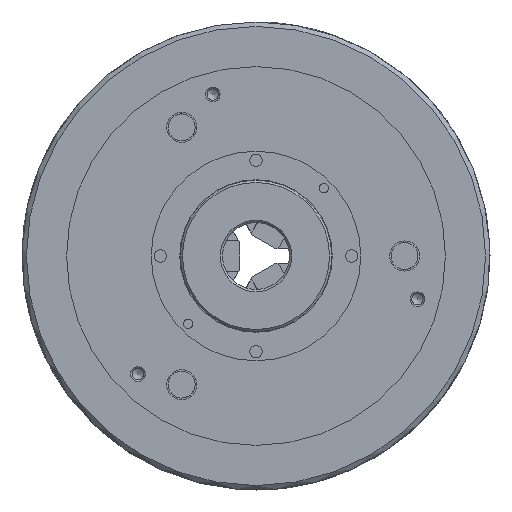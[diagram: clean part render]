
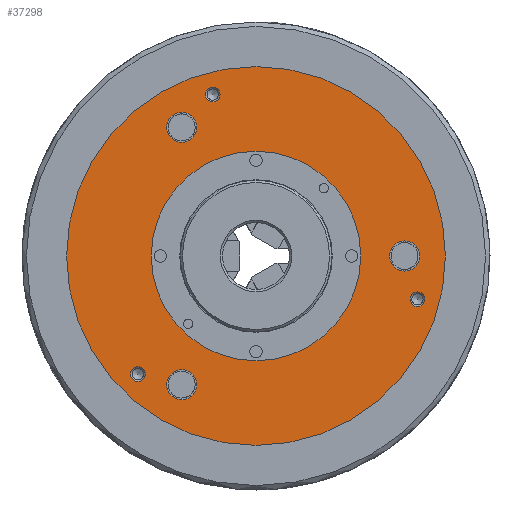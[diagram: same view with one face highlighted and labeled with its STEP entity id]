
A CAD part, left-side view. The second image highlights one B-rep face of the part: STEP entity #37298.
In plain terms, the highlighted planar face has unit normal (-1, 0, 0).
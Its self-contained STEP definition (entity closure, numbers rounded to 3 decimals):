
#1045 = CARTESIAN_POINT ( 'NONE',  ( -87., 53.033, -53.033 ) ) ;
#1838 = CARTESIAN_POINT ( 'NONE',  ( -87., 53.033, -49.733 ) ) ;
#1959 = AXIS2_PLACEMENT_3D ( 'NONE', #61685, #6852, #45292 ) ;
#2819 = DIRECTION ( 'NONE',  ( 1., 0., 0. ) ) ;
#2959 = CIRCLE ( 'NONE', #12643, 47. ) ;
#5049 = EDGE_LOOP ( 'NONE', ( #32671 ) ) ;
#5237 = DIRECTION ( 'NONE',  ( 0., 0., 1. ) ) ;
#6852 = DIRECTION ( 'NONE',  ( -1., 0., 0. ) ) ;
#7497 = EDGE_CURVE ( 'NONE', #24861, #24861, #65207, .T. ) ;
#7673 = VERTEX_POINT ( 'NONE', #1838 ) ;
#7756 = AXIS2_PLACEMENT_3D ( 'NONE', #19135, #63443, #51594 ) ;
#8067 = ORIENTED_EDGE ( 'NONE', *, *, #62127, .F. ) ;
#10005 = FACE_BOUND ( 'NONE', #10825, .T. ) ;
#10062 = DIRECTION ( 'NONE',  ( -1., 0., 0. ) ) ;
#10625 = EDGE_LOOP ( 'NONE', ( #24095 ) ) ;
#10718 = AXIS2_PLACEMENT_3D ( 'NONE', #56316, #51468, #12066 ) ;
#10825 = EDGE_LOOP ( 'NONE', ( #11694 ) ) ;
#10852 = EDGE_CURVE ( 'NONE', #37783, #37783, #39597, .T. ) ;
#10893 = FACE_BOUND ( 'NONE', #14907, .T. ) ;
#11694 = ORIENTED_EDGE ( 'NONE', *, *, #10852, .F. ) ;
#11767 = DIRECTION ( 'NONE',  ( -1., 0., 0. ) ) ;
#12066 = DIRECTION ( 'NONE',  ( 0., 0., -1. ) ) ;
#12643 = AXIS2_PLACEMENT_3D ( 'NONE', #54051, #10062, #5237 ) ;
#12680 = AXIS2_PLACEMENT_3D ( 'NONE', #21396, #59902, #37392 ) ;
#13156 = ORIENTED_EDGE ( 'NONE', *, *, #47104, .F. ) ;
#14585 = EDGE_CURVE ( 'NONE', #29063, #29063, #42269, .T. ) ;
#14648 = CARTESIAN_POINT ( 'NONE',  ( -87., 0., 0. ) ) ;
#14737 = ORIENTED_EDGE ( 'NONE', *, *, #65301, .F. ) ;
#14907 = EDGE_LOOP ( 'NONE', ( #20068 ) ) ;
#16963 = DIRECTION ( 'NONE',  ( 0., 0., 1. ) ) ;
#17298 = DIRECTION ( 'NONE',  ( 0., 0., 1. ) ) ;
#19135 = CARTESIAN_POINT ( 'NONE',  ( -87., 33.338, 57.742 ) ) ;
#19762 = EDGE_LOOP ( 'NONE', ( #14737 ) ) ;
#19972 = EDGE_LOOP ( 'NONE', ( #13156 ) ) ;
#20068 = ORIENTED_EDGE ( 'NONE', *, *, #14585, .F. ) ;
#21382 = EDGE_CURVE ( 'NONE', #23580, #23580, #55810, .T. ) ;
#21396 = CARTESIAN_POINT ( 'NONE',  ( -87., 33.338, -57.742 ) ) ;
#23042 = CARTESIAN_POINT ( 'NONE',  ( -87., 33.338, -50.992 ) ) ;
#23580 = VERTEX_POINT ( 'NONE', #23042 ) ;
#24095 = ORIENTED_EDGE ( 'NONE', *, *, #43282, .F. ) ;
#24861 = VERTEX_POINT ( 'NONE', #60580 ) ;
#25384 = DIRECTION ( 'NONE',  ( 0., 0., 1. ) ) ;
#26671 = VERTEX_POINT ( 'NONE', #57663 ) ;
#27441 = CARTESIAN_POINT ( 'NONE',  ( -87., 19.411, 72.444 ) ) ;
#29063 = VERTEX_POINT ( 'NONE', #50665 ) ;
#31395 = AXIS2_PLACEMENT_3D ( 'NONE', #14648, #2819, #64448 ) ;
#32228 = CARTESIAN_POINT ( 'NONE',  ( -87., 19.411, 75.744 ) ) ;
#32671 = ORIENTED_EDGE ( 'NONE', *, *, #7497, .F. ) ;
#35092 = FACE_BOUND ( 'NONE', #39787, .T. ) ;
#35378 = CARTESIAN_POINT ( 'NONE',  ( -87., -66.675, 6.75 ) ) ;
#37121 = VERTEX_POINT ( 'NONE', #35378 ) ;
#37298 = ADVANCED_FACE ( 'NONE', ( #43806, #10005, #59367, #64541, #10893, #67134, #35092, #46415 ), #67687, .F. ) ;
#37392 = DIRECTION ( 'NONE',  ( 0., 0., 1. ) ) ;
#37520 = CIRCLE ( 'NONE', #61554, 6.75 ) ;
#37783 = VERTEX_POINT ( 'NONE', #32228 ) ;
#39597 = CIRCLE ( 'NONE', #57114, 3.3 ) ;
#39787 = EDGE_LOOP ( 'NONE', ( #42092 ) ) ;
#39982 = CARTESIAN_POINT ( 'NONE',  ( -87., 0., 47. ) ) ;
#42092 = ORIENTED_EDGE ( 'NONE', *, *, #21382, .F. ) ;
#42269 = CIRCLE ( 'NONE', #7756, 6.75 ) ;
#43119 = DIRECTION ( 'NONE',  ( -1., 0., 0. ) ) ;
#43282 = EDGE_CURVE ( 'NONE', #7673, #7673, #46702, .T. ) ;
#43806 = FACE_BOUND ( 'NONE', #19972, .T. ) ;
#45292 = DIRECTION ( 'NONE',  ( 0., 0., 1. ) ) ;
#46415 = FACE_OUTER_BOUND ( 'NONE', #5049, .T. ) ;
#46702 = CIRCLE ( 'NONE', #66697, 3.3 ) ;
#47104 = EDGE_CURVE ( 'NONE', #68248, #68248, #2959, .T. ) ;
#50665 = CARTESIAN_POINT ( 'NONE',  ( -87., 33.338, 64.492 ) ) ;
#50841 = DIRECTION ( 'NONE',  ( -1., 0., 0. ) ) ;
#51468 = DIRECTION ( 'NONE',  ( 1., 0., 0. ) ) ;
#51594 = DIRECTION ( 'NONE',  ( 0., 0., 1. ) ) ;
#54051 = CARTESIAN_POINT ( 'NONE',  ( -87., 0., 0. ) ) ;
#55810 = CIRCLE ( 'NONE', #12680, 6.75 ) ;
#56316 = CARTESIAN_POINT ( 'NONE',  ( -87., 49., 0. ) ) ;
#57114 = AXIS2_PLACEMENT_3D ( 'NONE', #27441, #11767, #17298 ) ;
#57663 = CARTESIAN_POINT ( 'NONE',  ( -87., -72.444, -16.111 ) ) ;
#58711 = CIRCLE ( 'NONE', #1959, 3.3 ) ;
#59367 = FACE_BOUND ( 'NONE', #19762, .T. ) ;
#59902 = DIRECTION ( 'NONE',  ( -1., 0., 0. ) ) ;
#60580 = CARTESIAN_POINT ( 'NONE',  ( -87., 0., -85. ) ) ;
#61554 = AXIS2_PLACEMENT_3D ( 'NONE', #70665, #43119, #25384 ) ;
#61685 = CARTESIAN_POINT ( 'NONE',  ( -87., -72.444, -19.411 ) ) ;
#62127 = EDGE_CURVE ( 'NONE', #37121, #37121, #37520, .T. ) ;
#62595 = EDGE_LOOP ( 'NONE', ( #8067 ) ) ;
#63443 = DIRECTION ( 'NONE',  ( -1., 0., 0. ) ) ;
#64448 = DIRECTION ( 'NONE',  ( 0., 0., -1. ) ) ;
#64541 = FACE_BOUND ( 'NONE', #10625, .T. ) ;
#65207 = CIRCLE ( 'NONE', #31395, 85. ) ;
#65301 = EDGE_CURVE ( 'NONE', #26671, #26671, #58711, .T. ) ;
#66697 = AXIS2_PLACEMENT_3D ( 'NONE', #1045, #50841, #16963 ) ;
#67134 = FACE_BOUND ( 'NONE', #62595, .T. ) ;
#67687 = PLANE ( 'NONE',  #10718 ) ;
#68248 = VERTEX_POINT ( 'NONE', #39982 ) ;
#70665 = CARTESIAN_POINT ( 'NONE',  ( -87., -66.675, 0. ) ) ;
